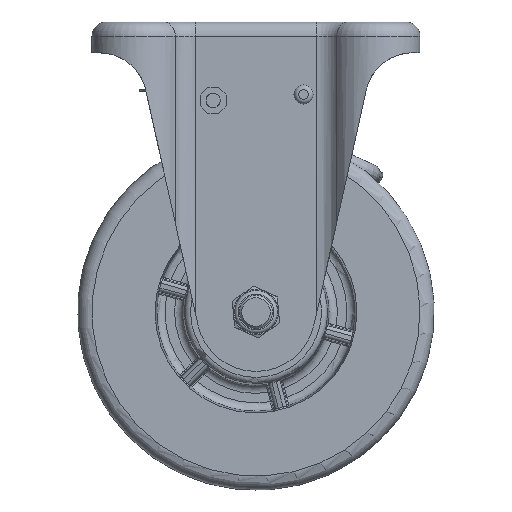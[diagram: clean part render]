
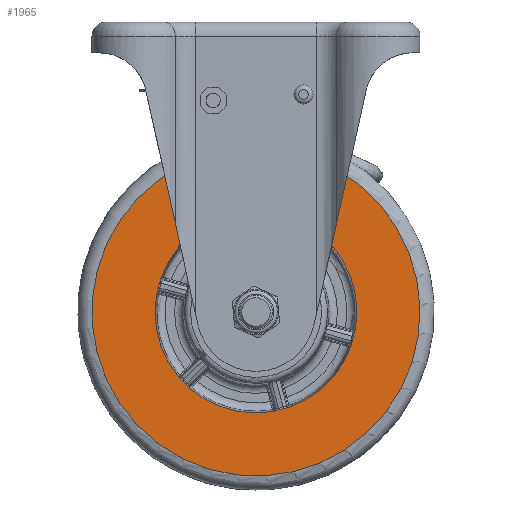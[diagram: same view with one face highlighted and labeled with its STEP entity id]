
A CAD part, front view. The second image highlights one B-rep face of the part: STEP entity #1965.
In plain terms, the highlighted planar face has unit normal (0, -1, 0).
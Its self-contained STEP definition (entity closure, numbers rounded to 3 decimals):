
#1965=ADVANCED_FACE('',(#4619,#4620),#2358,.F.);
#2358=PLANE('',#14709);
#4619=FACE_BOUND('',#5400,.T.);
#4620=FACE_BOUND('',#5401,.T.);
#5400=EDGE_LOOP('',(#8708));
#5401=EDGE_LOOP('',(#8709));
#8708=ORIENTED_EDGE('',*,*,#12629,.T.);
#8709=ORIENTED_EDGE('',*,*,#12628,.F.);
#10779=VERTEX_POINT('',#42448);
#10780=VERTEX_POINT('',#42451);
#12628=EDGE_CURVE('',#10779,#10779,#13625,.T.);
#12629=EDGE_CURVE('',#10780,#10780,#13626,.T.);
#13625=CIRCLE('',#14706,42.468);
#13626=CIRCLE('',#14708,69.);
#14706=AXIS2_PLACEMENT_3D('',#42447,#17439,#17440);
#14708=AXIS2_PLACEMENT_3D('',#42450,#17443,#17444);
#14709=AXIS2_PLACEMENT_3D('',#42452,#17445,#17446);
#17439=DIRECTION('',(0.,-1.,0.));
#17440=DIRECTION('',(0.,0.,1.));
#17443=DIRECTION('',(0.,-1.,0.));
#17444=DIRECTION('',(0.,0.,1.));
#17445=DIRECTION('',(0.,1.,0.));
#17446=DIRECTION('',(0.,0.,-1.));
#42447=CARTESIAN_POINT('',(0.,-19.,-122.));
#42448=CARTESIAN_POINT('',(0.,-19.,-79.532));
#42450=CARTESIAN_POINT('',(0.,-19.,-122.));
#42451=CARTESIAN_POINT('',(0.,-19.,-53.));
#42452=CARTESIAN_POINT('',(0.,-19.,-122.));
